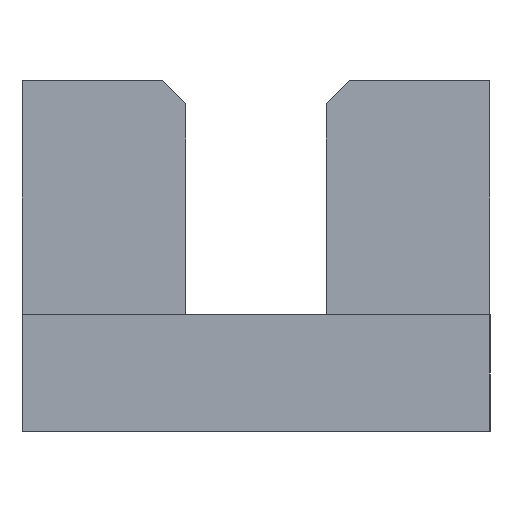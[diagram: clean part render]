
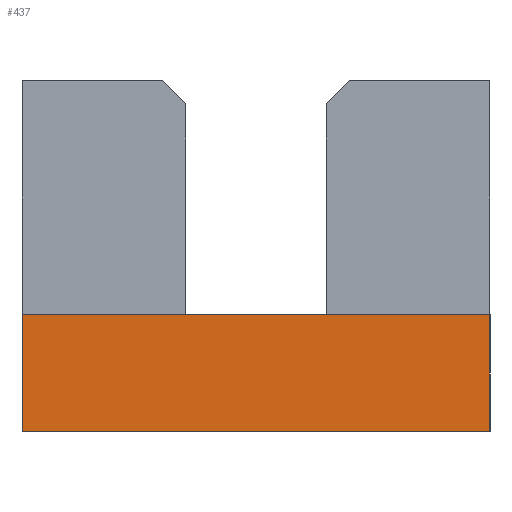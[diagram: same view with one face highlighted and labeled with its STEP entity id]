
A CAD part, left-side view. The second image highlights one B-rep face of the part: STEP entity #437.
In plain terms, the highlighted planar face has unit normal (-1, 0, 0).
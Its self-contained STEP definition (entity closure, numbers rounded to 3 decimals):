
#410=AXIS2_PLACEMENT_3D('Plane Axis2P3D',#407,#408,#409) ;
#77=CARTESIAN_POINT('Line Origine',(-90.,0.,25.)) ;
#81=CARTESIAN_POINT('Vertex',(-90.,50.,25.)) ;
#83=CARTESIAN_POINT('Vertex',(-90.,-50.,25.)) ;
#407=CARTESIAN_POINT('Axis2P3D Location',(-90.,0.,0.)) ;
#412=CARTESIAN_POINT('Line Origine',(-90.,50.,12.5)) ;
#416=CARTESIAN_POINT('Vertex',(-90.,50.,0.)) ;
#419=CARTESIAN_POINT('Line Origine',(-90.,0.,0.)) ;
#423=CARTESIAN_POINT('Vertex',(-90.,-50.,0.)) ;
#426=CARTESIAN_POINT('Line Origine',(-90.,-50.,12.5)) ;
#78=DIRECTION('Vector Direction',(0.,1.,0.)) ;
#408=DIRECTION('Axis2P3D Direction',(1.,0.,0.)) ;
#409=DIRECTION('Axis2P3D XDirection',(0.,1.,0.)) ;
#413=DIRECTION('Vector Direction',(0.,0.,1.)) ;
#420=DIRECTION('Vector Direction',(0.,-1.,0.)) ;
#427=DIRECTION('Vector Direction',(0.,0.,-1.)) ;
#79=VECTOR('Line Direction',#78,1.) ;
#414=VECTOR('Line Direction',#413,1.) ;
#421=VECTOR('Line Direction',#420,1.) ;
#428=VECTOR('Line Direction',#427,1.) ;
#432=ORIENTED_EDGE('',*,*,#85,.F.) ;
#433=ORIENTED_EDGE('',*,*,#418,.F.) ;
#434=ORIENTED_EDGE('',*,*,#425,.F.) ;
#435=ORIENTED_EDGE('',*,*,#430,.F.) ;
#437=ADVANCED_FACE('\X2\96F64EF651E04F554F53\X0\',(#436),#411,.F.) ;
#85=EDGE_CURVE('',#82,#84,#80,.F.) ;
#418=EDGE_CURVE('',#417,#82,#415,.T.) ;
#425=EDGE_CURVE('',#424,#417,#422,.F.) ;
#430=EDGE_CURVE('',#84,#424,#429,.T.) ;
#431=EDGE_LOOP('',(#432,#433,#434,#435)) ;
#436=FACE_OUTER_BOUND('',#431,.T.) ;
#80=LINE('Line',#77,#79) ;
#415=LINE('Line',#412,#414) ;
#422=LINE('Line',#419,#421) ;
#429=LINE('Line',#426,#428) ;
#411=PLANE('Plane',#410) ;
#82=VERTEX_POINT('',#81) ;
#84=VERTEX_POINT('',#83) ;
#417=VERTEX_POINT('',#416) ;
#424=VERTEX_POINT('',#423) ;
